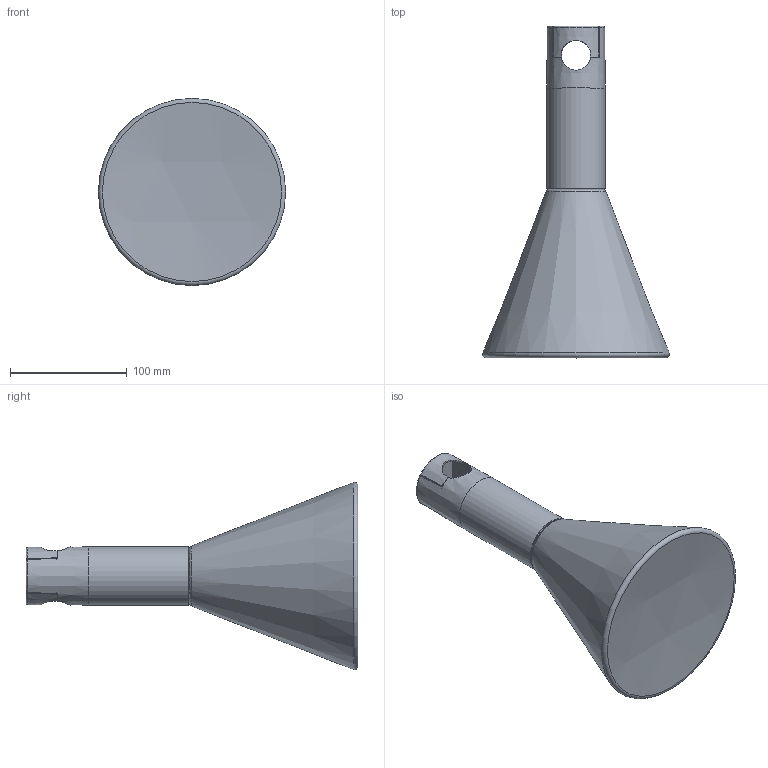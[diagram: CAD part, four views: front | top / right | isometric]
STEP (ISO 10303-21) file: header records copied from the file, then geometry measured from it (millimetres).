
FILE_DESCRIPTION(/* description */ (''),/* implementation_level */ '2;1');
FILE_NAME(/* name */ 'S:\UFFICIO TECNICO 2019\PRODOTTI ROTALIANA\SOUVLAKI\CONFIGURATORE\FILES X CONFIGURATORE\ipt INVENTOR\ASVSV_faretto a binario con diffusore conico.stp',/* time_stamp */ '2024-03-13T12:05:37+01:00',/* author */ ('mtesta'),/* organization */ (''),/* preprocessor_version */ 'ST-DEVELOPER v18.1',/* originating_system */ 'Autodesk Inventor 2021',/* authorisation */ '');
FILE_SCHEMA (('AUTOMOTIVE_DESIGN { 1 0 10303 214 3 1 1 }'));
Length unit declared in the file: millimetre
Products named in the file (1): ASVSV_faretto a binario con diffusore conico
Bounding box: 160 x 283.65 x 160 mm (x, y, z)
Surface area: 97928.3 mm2 (no closed solid volume)
Topology: 0 solids, 10 shells, 99 faces, 424 edges, 333 vertices
Faces by surface type: plane 30, bspline 28, cylinder 28, torus 8, cone 4, sphere 1
Full cylindrical faces by diameter (mm): 47.8 x1, 50 x1
Entity records: 5669 total; most frequent: CARTESIAN_POINT 2370, DIRECTION 610, ORIENTED_EDGE 591, EDGE_CURVE 422, VERTEX_POINT 331, AXIS2_PLACEMENT_3D 231, LINE 148, VECTOR 148
